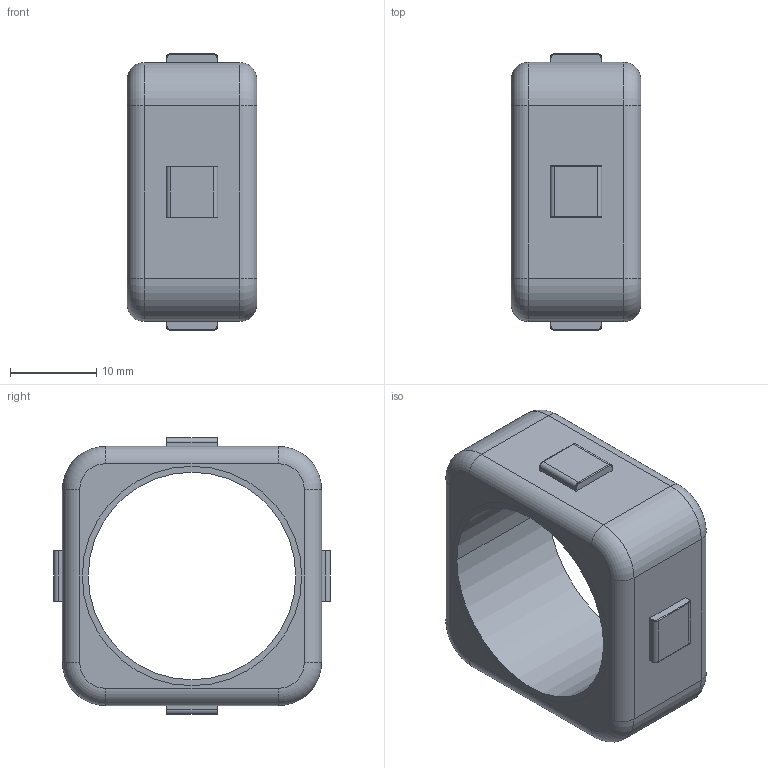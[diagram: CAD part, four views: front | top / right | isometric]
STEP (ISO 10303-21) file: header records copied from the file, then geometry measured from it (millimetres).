
FILE_DESCRIPTION(/* description */ ('VariCAD 2017-2.10 AP-214'),/* implementation_level */ '2;1');
FILE_NAME(/* name */ '09_filter_support_short.stp',/* time_stamp */ '2023-12-21T11:01:55+02:00',/* author */ (''),/* organization */ (''),/* preprocessor_version */ 'VariCAD 2017-2.10',/* originating_system */ 'VariCAD 2017-2.10; kernel version (20130303)',/* authorisation */ '');
FILE_SCHEMA(('AUTOMOTIVE_DESIGN'));
Length unit declared in the file: millimetre
Products named in the file (2): 09_filter_support_short
Assembly tree (1 placements, depth 2):
  09_filter_support_short
    (unnamed)
Bounding box: 15 x 32 x 32 mm (x, y, z)
Volume: 6332.7 mm3; surface area: 3541.2 mm2
Topology: 1 solids, 1 shells, 98 faces, 226 edges, 136 vertices
Faces by surface type: cylinder 46, plane 28, torus 24
Entity records: 3230 total; most frequent: DIRECTION 550, CARTESIAN_POINT 464, ORIENTED_EDGE 452, EDGE_CURVE 226, AXIS2_PLACEMENT_3D 222, VERTEX_POINT 136, CIRCLE 120, EDGE_LOOP 106
